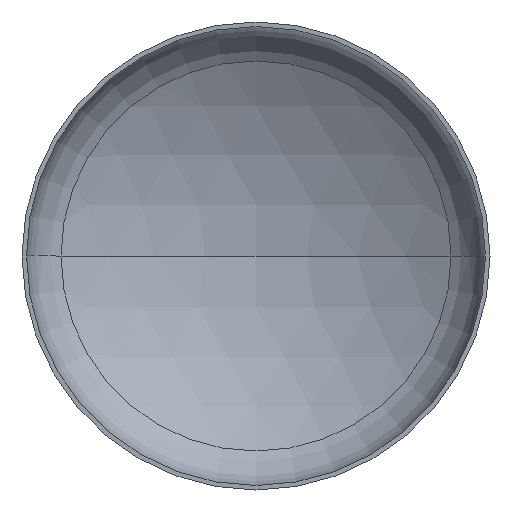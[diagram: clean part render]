
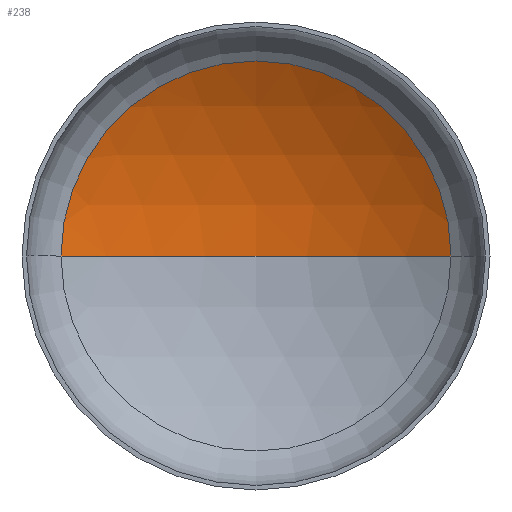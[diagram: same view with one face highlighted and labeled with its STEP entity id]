
A CAD part, front view. The second image highlights one B-rep face of the part: STEP entity #238.
In plain terms, the highlighted spherical face has radius 2080 mm.
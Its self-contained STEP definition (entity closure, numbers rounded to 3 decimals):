
#13 = EDGE_LOOP ( 'NONE', ( #144, #125, #83 ) ) ;
#15 = EDGE_CURVE ( 'NONE', #247, #114, #356, .T. ) ;
#18 = EDGE_CURVE ( 'NONE', #115, #247, #139, .T. ) ;
#19 = EDGE_CURVE ( 'NONE', #115, #114, #404, .T. ) ;
#66 = FACE_OUTER_BOUND ( 'NONE', #13, .T. ) ;
#80 = CARTESIAN_POINT ( 'NONE',  ( 0., -1359.146, 0. ) ) ;
#83 = ORIENTED_EDGE ( 'NONE', *, *, #15, .T. ) ;
#97 = AXIS2_PLACEMENT_3D ( 'NONE', #80, #402, #141 ) ;
#114 = VERTEX_POINT ( 'NONE', #297 ) ;
#115 = VERTEX_POINT ( 'NONE', #173 ) ;
#125 = ORIENTED_EDGE ( 'NONE', *, *, #18, .T. ) ;
#139 = CIRCLE ( 'NONE', #185, 2080. ) ;
#141 = DIRECTION ( 'NONE',  ( -1., 0., 0. ) ) ;
#144 = ORIENTED_EDGE ( 'NONE', *, *, #19, .F. ) ;
#153 = CARTESIAN_POINT ( 'NONE',  ( 1083.333, 416.463, 0. ) ) ;
#163 = AXIS2_PLACEMENT_3D ( 'NONE', #321, #320, #319 ) ;
#173 = CARTESIAN_POINT ( 'NONE',  ( 0., 720.854, 0. ) ) ;
#184 = SPHERICAL_SURFACE ( 'NONE', #97, 2080. ) ;
#185 = AXIS2_PLACEMENT_3D ( 'NONE', #338, #350, #348 ) ;
#226 = AXIS2_PLACEMENT_3D ( 'NONE', #378, #386, #307 ) ;
#238 = ADVANCED_FACE ( 'NONE', ( #66 ), #184, .F. ) ;
#247 = VERTEX_POINT ( 'NONE', #153 ) ;
#297 = CARTESIAN_POINT ( 'NONE',  ( -1083.333, 416.463, 0. ) ) ;
#307 = DIRECTION ( 'NONE',  ( 1., 0., 0. ) ) ;
#319 = DIRECTION ( 'NONE',  ( 1., 0., 0. ) ) ;
#320 = DIRECTION ( 'NONE',  ( 0., -1., 0. ) ) ;
#321 = CARTESIAN_POINT ( 'NONE',  ( 0., 416.463, 0. ) ) ;
#338 = CARTESIAN_POINT ( 'NONE',  ( 0., -1359.146, 0. ) ) ;
#348 = DIRECTION ( 'NONE',  ( -1., 0., 0. ) ) ;
#350 = DIRECTION ( 'NONE',  ( 0., 0., -1. ) ) ;
#356 = CIRCLE ( 'NONE', #163, 1083.333 ) ;
#378 = CARTESIAN_POINT ( 'NONE',  ( 0., -1359.146, 0. ) ) ;
#386 = DIRECTION ( 'NONE',  ( 0., 0., 1. ) ) ;
#402 = DIRECTION ( 'NONE',  ( 0., 0., -1. ) ) ;
#404 = CIRCLE ( 'NONE', #226, 2080. ) ;
